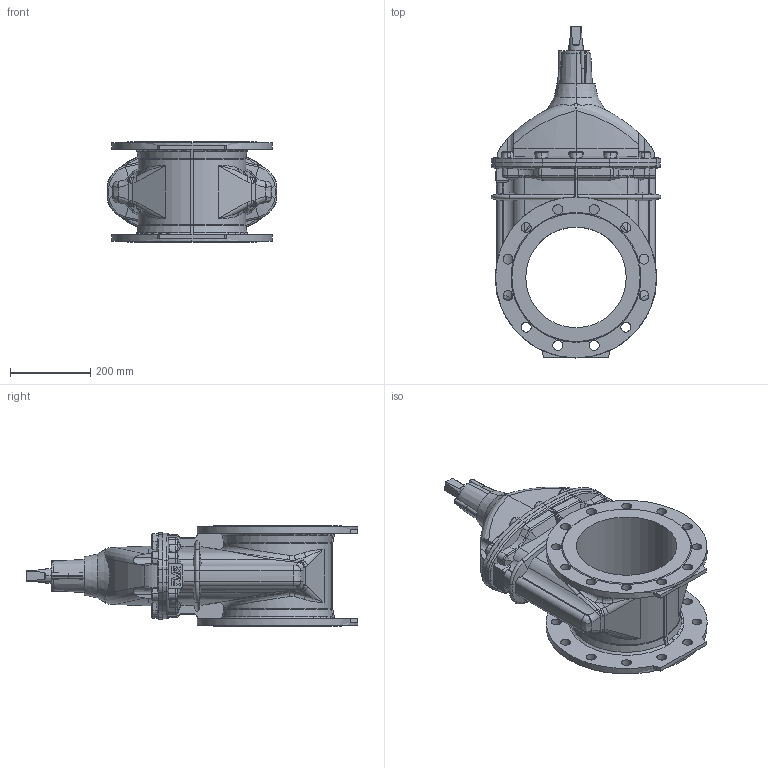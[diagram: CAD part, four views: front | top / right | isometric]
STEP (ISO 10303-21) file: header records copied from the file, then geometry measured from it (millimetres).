
FILE_DESCRIPTION (( 'STEP AP203' ), '1' );
FILE_NAME ('O_06_30_DN250_XXXXXXX99_PN10_REV02.step', '2021-02-17T07:38:25', ( '' ), ( '' ), 'SwSTEP 2.0', 'SolidWorks 2019', '' );
FILE_SCHEMA (( 'CONFIG_CONTROL_DESIGN' ));
Length unit declared in the file: millimetre
Products named in the file (1): O_06_30_DN250_XXXXXXX99_PN10_REV02
Bounding box: 421.93 x 825.1 x 250 mm (x, y, z)
Volume: 21616512.7 mm3; surface area: 1159524.7 mm2
Topology: 1 solids, 1 shells, 698 faces, 1836 edges, 1124 vertices
Faces by surface type: plane 203, cylinder 171, cone 166, bspline 86, torus 70, sphere 2
Entity records: 26669 total; most frequent: CARTESIAN_POINT 10697, ORIENTED_EDGE 3624, DIRECTION 3002, EDGE_CURVE 1812, AXIS2_PLACEMENT_3D 1161, VERTEX_POINT 1124, EDGE_LOOP 756, ADVANCED_FACE 698
